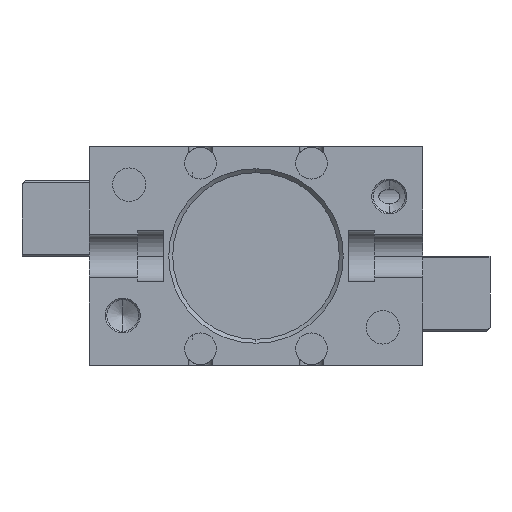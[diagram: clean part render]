
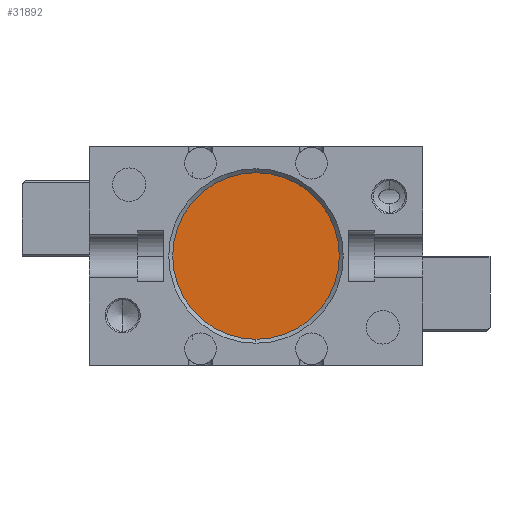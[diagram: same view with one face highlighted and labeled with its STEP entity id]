
A CAD part, front view. The second image highlights one B-rep face of the part: STEP entity #31892.
In plain terms, the highlighted planar face has unit normal (0, -1, 0).
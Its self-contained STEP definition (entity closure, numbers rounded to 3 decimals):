
#893 = CIRCLE ( 'NONE', #11751, 10.5 ) ;
#2953 = VERTEX_POINT ( 'NONE', #17586 ) ;
#5531 = CARTESIAN_POINT ( 'NONE',  ( 0., 3., 10.5 ) ) ;
#8527 = CARTESIAN_POINT ( 'NONE',  ( 0., 3., 0. ) ) ;
#11751 = AXIS2_PLACEMENT_3D ( 'NONE', #38237, #15992, #41981 ) ;
#12300 = DIRECTION ( 'NONE',  ( 0., 0., -1. ) ) ;
#13098 = AXIS2_PLACEMENT_3D ( 'NONE', #8527, #34524, #12300 ) ;
#15992 = DIRECTION ( 'NONE',  ( 0., -1., 0. ) ) ;
#16805 = EDGE_CURVE ( 'NONE', #2953, #28279, #893, .T. ) ;
#17586 = CARTESIAN_POINT ( 'NONE',  ( 0., 3., -10.5 ) ) ;
#19304 = DIRECTION ( 'NONE',  ( 0., -1., 0. ) ) ;
#21968 = ORIENTED_EDGE ( 'NONE', *, *, #16805, .T. ) ;
#23158 = FACE_OUTER_BOUND ( 'NONE', #24642, .T. ) ;
#23458 = CIRCLE ( 'NONE', #13098, 10.5 ) ;
#24629 = AXIS2_PLACEMENT_3D ( 'NONE', #41583, #19304, #45338 ) ;
#24642 = EDGE_LOOP ( 'NONE', ( #21968, #48153 ) ) ;
#25173 = EDGE_CURVE ( 'NONE', #28279, #2953, #23458, .T. ) ;
#28279 = VERTEX_POINT ( 'NONE', #5531 ) ;
#31892 = ADVANCED_FACE ( 'NONE', ( #23158 ), #34093, .T. ) ;
#34093 = PLANE ( 'NONE',  #24629 ) ;
#34524 = DIRECTION ( 'NONE',  ( 0., -1., 0. ) ) ;
#38237 = CARTESIAN_POINT ( 'NONE',  ( 0., 3., 0. ) ) ;
#41583 = CARTESIAN_POINT ( 'NONE',  ( 0., 3., 0. ) ) ;
#41981 = DIRECTION ( 'NONE',  ( 0., 0., -1. ) ) ;
#45338 = DIRECTION ( 'NONE',  ( 0., 0., -1. ) ) ;
#48153 = ORIENTED_EDGE ( 'NONE', *, *, #25173, .T. ) ;
